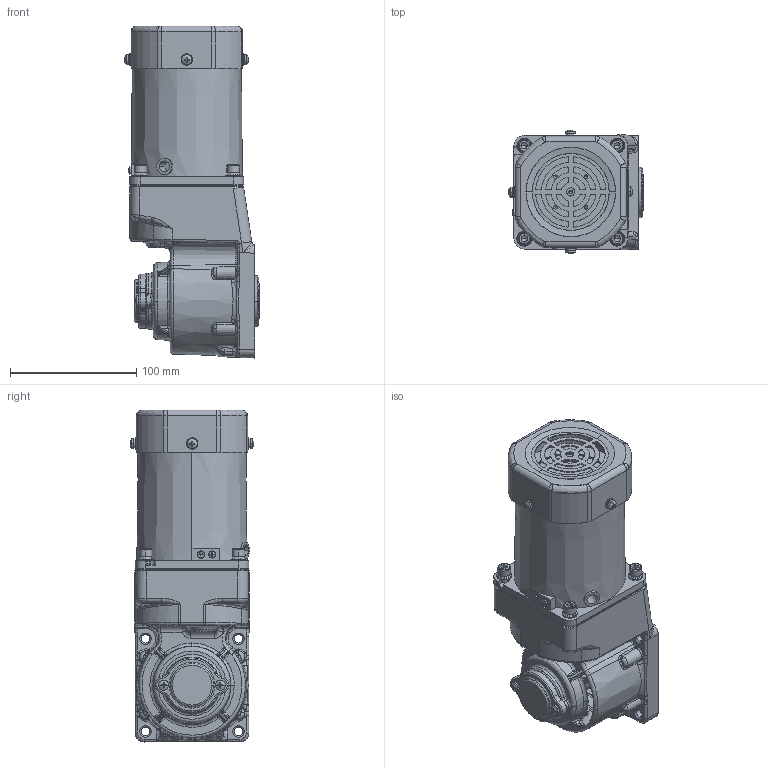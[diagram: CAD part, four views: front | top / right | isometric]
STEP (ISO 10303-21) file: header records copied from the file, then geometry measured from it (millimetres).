
FILE_DESCRIPTION (( 'STEP AP203' ), '1' );
FILE_NAME ('5IK60GU-CF(5GU3RC-180RC)ÐÂ.STEP', '2022-02-23T06:52:29', ( 'PC' ), ( 'Microsoft' ), 'SwSTEP 2.0', 'SolidWorks 2014', '' );
FILE_SCHEMA (( 'CONFIG_CONTROL_DESIGN' ));
Length unit declared in the file: millimetre
Products named in the file (8): 90RT妗陑怀堤傷裔; 90諾陑怀堤粣; hexagon socket head cap screws gb_GB_FASTENER_SCREWS_HSHCS M5X12-N; ZD-5GU50RC-505-003綴傷裔1; cross recessed pan head screws gb_GB_CROSS_SCREWS_TYPE1 M4X6-6  H type-N; 5IK60GU-CF(5GU3RT-180RT); 5IK60GU-CF(5GU3RC-180RC)陔; 90妗陑俋倛芞
Assembly tree (11 placements, depth 2):
  5IK60GU-CF(5GU3RC-180RC)陔
    90妗陑俋倛芞
    90RT妗陑怀堤傷裔
    90諾陑怀堤粣
    hexagon socket head cap screws gb_GB_FASTENER_SCREWS_HSHCS M5X12-N  x4
    ZD-5GU50RC-505-003綴傷裔1
    cross recessed pan head screws gb_GB_CROSS_SCREWS_TYPE1 M4X6-6  H type-N  x2
    5IK60GU-CF(5GU3RT-180RT)
Bounding box: 106.75 x 98.11 x 263.04 mm (x, y, z)
Volume: 1475842.7 mm3; surface area: 199971.4 mm2
Topology: 41 solids, 41 shells, 2206 faces, 5469 edges, 3287 vertices
Faces by surface type: plane 654, cylinder 551, bspline 500, cone 412, torus 85, sphere 4
Entity records: 90108 total; most frequent: CARTESIAN_POINT 43048, ORIENTED_EDGE 10234, DIRECTION 8912, EDGE_CURVE 5117, AXIS2_PLACEMENT_3D 3532, VERTEX_POINT 3144, EDGE_LOOP 2251, ADVANCED_FACE 2106
